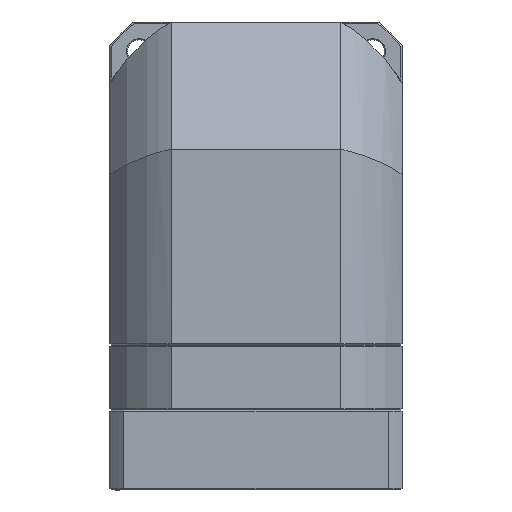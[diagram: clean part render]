
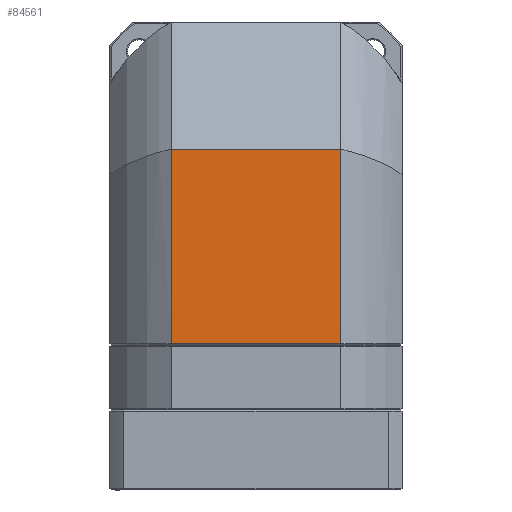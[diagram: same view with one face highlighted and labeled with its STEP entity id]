
A CAD part, front view. The second image highlights one B-rep face of the part: STEP entity #84561.
In plain terms, the highlighted planar face has unit normal (0, 1, 0).
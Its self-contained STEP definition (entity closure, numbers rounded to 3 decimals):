
#4340 = ORIENTED_EDGE ( 'NONE', *, *, #18060, .T. ) ;
#5957 = LINE ( 'NONE', #20725, #26660 ) ;
#7026 = VECTOR ( 'NONE', #88156, 1000. ) ;
#7116 = EDGE_LOOP ( 'NONE', ( #4340, #18883, #74262, #33468 ) ) ;
#9460 = LINE ( 'NONE', #80332, #7026 ) ;
#11119 = PLANE ( 'NONE',  #27139 ) ;
#18060 = EDGE_CURVE ( 'NONE', #43464, #57325, #5957, .T. ) ;
#18883 = ORIENTED_EDGE ( 'NONE', *, *, #82838, .F. ) ;
#19620 = CARTESIAN_POINT ( 'NONE',  ( -33.407, -172.111, 7.5 ) ) ;
#20725 = CARTESIAN_POINT ( 'NONE',  ( 33.407, -172.111, -30.62 ) ) ;
#23764 = EDGE_CURVE ( 'NONE', #57850, #43464, #9460, .T. ) ;
#26660 = VECTOR ( 'NONE', #75356, 1000. ) ;
#26831 = DIRECTION ( 'NONE',  ( 1., 0., 0. ) ) ;
#27139 = AXIS2_PLACEMENT_3D ( 'NONE', #42431, #96755, #50221 ) ;
#28271 = CARTESIAN_POINT ( 'NONE',  ( 33.407, -172.111, -69.2 ) ) ;
#33468 = ORIENTED_EDGE ( 'NONE', *, *, #23764, .T. ) ;
#34255 = VECTOR ( 'NONE', #34968, 1000. ) ;
#34768 = CARTESIAN_POINT ( 'NONE',  ( -33.407, -172.111, -69.2 ) ) ;
#34968 = DIRECTION ( 'NONE',  ( 0., 0., 1. ) ) ;
#39599 = LINE ( 'NONE', #73299, #96698 ) ;
#42431 = CARTESIAN_POINT ( 'NONE',  ( -33.407, -172.111, -69.2 ) ) ;
#43464 = VERTEX_POINT ( 'NONE', #71049 ) ;
#43648 = VERTEX_POINT ( 'NONE', #34768 ) ;
#50221 = DIRECTION ( 'NONE',  ( 1., 0., 0. ) ) ;
#50329 = FACE_OUTER_BOUND ( 'NONE', #7116, .T. ) ;
#54213 = EDGE_CURVE ( 'NONE', #43648, #57850, #96224, .T. ) ;
#57325 = VERTEX_POINT ( 'NONE', #28271 ) ;
#57850 = VERTEX_POINT ( 'NONE', #19620 ) ;
#71049 = CARTESIAN_POINT ( 'NONE',  ( 33.407, -172.111, 7.5 ) ) ;
#73299 = CARTESIAN_POINT ( 'NONE',  ( 0., -172.111, -69.2 ) ) ;
#74262 = ORIENTED_EDGE ( 'NONE', *, *, #54213, .T. ) ;
#75356 = DIRECTION ( 'NONE',  ( 0., 0., -1. ) ) ;
#80332 = CARTESIAN_POINT ( 'NONE',  ( 0., -172.111, 7.5 ) ) ;
#82838 = EDGE_CURVE ( 'NONE', #43648, #57325, #39599, .T. ) ;
#84561 = ADVANCED_FACE ( 'NONE', ( #50329 ), #11119, .F. ) ;
#88156 = DIRECTION ( 'NONE',  ( 1., 0., 0. ) ) ;
#96224 = LINE ( 'NONE', #99462, #34255 ) ;
#96698 = VECTOR ( 'NONE', #26831, 1000. ) ;
#96755 = DIRECTION ( 'NONE',  ( 0., -1., 0. ) ) ;
#99462 = CARTESIAN_POINT ( 'NONE',  ( -33.407, -172.111, -30.62 ) ) ;
